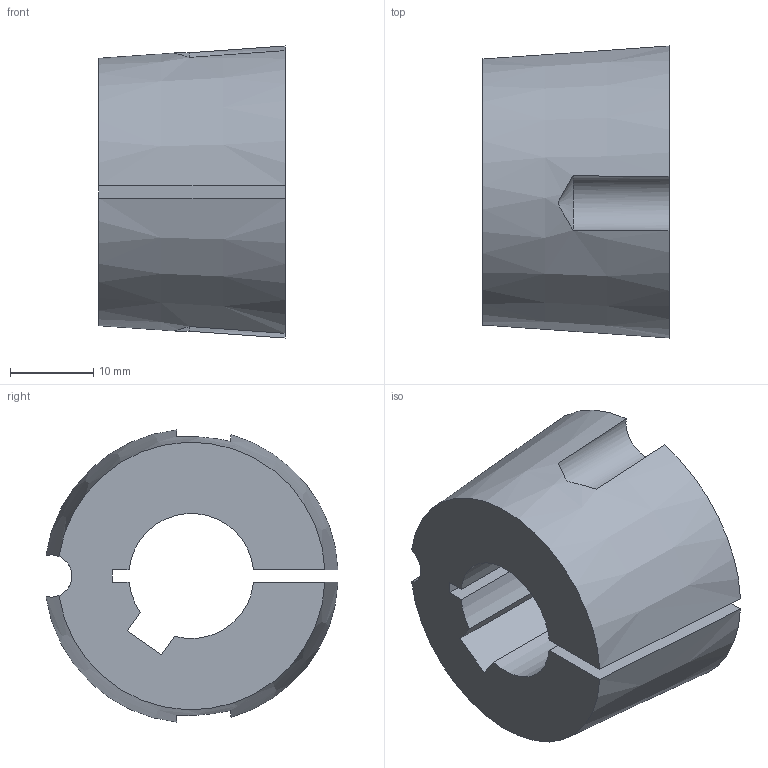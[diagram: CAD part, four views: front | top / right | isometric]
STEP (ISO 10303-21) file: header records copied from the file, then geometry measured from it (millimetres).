
FILE_DESCRIPTION( ( 'STEP AP203' ), '1' );
FILE_NAME( 'D:/export/antriebselemente/spannbuchsen_und_spannsaetze/taper-spannbuchsen_1008_bis_5050/taper-spannbuchsen_62250115Isometric_7.stp', '2018-12-11T11:10:56', ( '' ), ( '' ), ' ', 'PARTsolutions', ' ' );
FILE_SCHEMA( ( 'CONFIG_CONTROL_DESIGN' ) );
Length unit declared in the file: millimetre
Products named in the file (1): _taper-spannbuchsen_62250115
Bounding box: 22.3 x 35.01 x 35.02 mm (x, y, z)
Volume: 14590 mm3; surface area: 5443.8 mm2
Topology: 1 solids, 1 shells, 20 faces, 54 edges, 36 vertices
Faces by surface type: plane 10, cylinder 6, cone 4
Entity records: 736 total; most frequent: CARTESIAN_POINT 187, ORIENTED_EDGE 108, DIRECTION 104, EDGE_CURVE 54, AXIS2_PLACEMENT_3D 39, VERTEX_POINT 36, LINE 26, VECTOR 26
